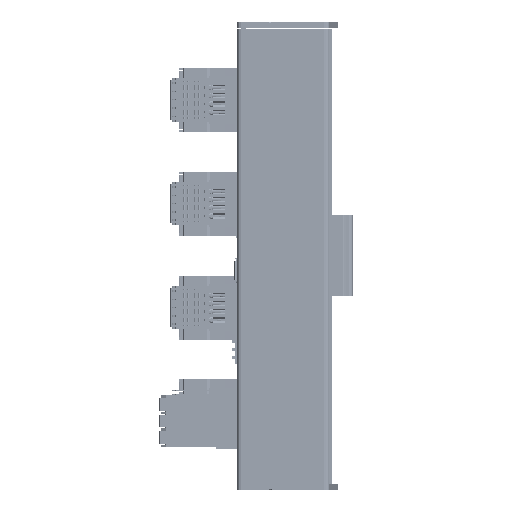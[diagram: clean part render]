
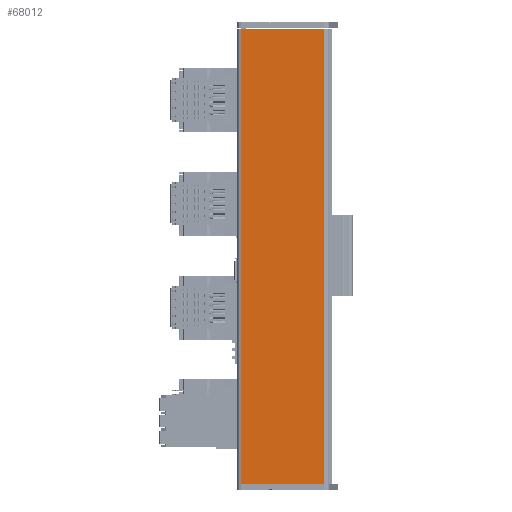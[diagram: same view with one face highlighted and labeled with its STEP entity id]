
A CAD part, left-side view. The second image highlights one B-rep face of the part: STEP entity #68012.
In plain terms, the highlighted planar face has unit normal (-1, 0, 0) as drawn and (1, 0, 0) by its records, which use the part's own axes.
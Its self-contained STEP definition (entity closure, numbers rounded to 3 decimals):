
#48 = VECTOR ( 'NONE', #456505, 1000. ) ;
#18955 = CARTESIAN_POINT ( 'NONE',  ( 52.5, 0., 140.1 ) ) ;
#39817 = ORIENTED_EDGE ( 'NONE', *, *, #506039, .F. ) ;
#46602 = EDGE_CURVE ( 'NONE', #213860, #267017, #537901, .T. ) ;
#49894 = CARTESIAN_POINT ( 'NONE',  ( 52.5, 0., 140.1 ) ) ;
#68012 = ADVANCED_FACE ( 'NONE', ( #186249 ), #364461, .F. ) ;
#75172 = DIRECTION ( 'NONE',  ( 0., 0., -1. ) ) ;
#82093 = VECTOR ( 'NONE', #178130, 1000. ) ;
#87139 = CARTESIAN_POINT ( 'NONE',  ( 52.5, 21.426, 140.1 ) ) ;
#91756 = AXIS2_PLACEMENT_3D ( 'NONE', #18955, #105369, #275353 ) ;
#93090 = EDGE_LOOP ( 'NONE', ( #504887, #440275, #110829, #39817 ) ) ;
#105369 = DIRECTION ( 'NONE',  ( -1., 0., 0. ) ) ;
#110829 = ORIENTED_EDGE ( 'NONE', *, *, #547257, .F. ) ;
#116481 = CARTESIAN_POINT ( 'NONE',  ( 52.5, -4.28, 140.1 ) ) ;
#130508 = VERTEX_POINT ( 'NONE', #347732 ) ;
#178130 = DIRECTION ( 'NONE',  ( 0., -1., 0. ) ) ;
#186249 = FACE_OUTER_BOUND ( 'NONE', #93090, .T. ) ;
#186355 = CARTESIAN_POINT ( 'NONE',  ( 52.5, 0., 0. ) ) ;
#189346 = CARTESIAN_POINT ( 'NONE',  ( 52.5, -4.28, 140.1 ) ) ;
#190280 = VERTEX_POINT ( 'NONE', #189346 ) ;
#191475 = CARTESIAN_POINT ( 'NONE',  ( 52.5, 21.426, 0. ) ) ;
#213860 = VERTEX_POINT ( 'NONE', #87139 ) ;
#267017 = VERTEX_POINT ( 'NONE', #191475 ) ;
#275353 = DIRECTION ( 'NONE',  ( 0., -1., 0. ) ) ;
#289739 = CARTESIAN_POINT ( 'NONE',  ( 52.5, 21.426, 140.1 ) ) ;
#294030 = EDGE_CURVE ( 'NONE', #190280, #213860, #434444, .T. ) ;
#347732 = CARTESIAN_POINT ( 'NONE',  ( 52.5, -4.28, 0. ) ) ;
#350879 = LINE ( 'NONE', #186355, #82093 ) ;
#364461 = PLANE ( 'NONE',  #91756 ) ;
#389880 = DIRECTION ( 'NONE',  ( 0., 1., 0. ) ) ;
#434444 = LINE ( 'NONE', #49894, #463762 ) ;
#437304 = VECTOR ( 'NONE', #75172, 1000. ) ;
#440275 = ORIENTED_EDGE ( 'NONE', *, *, #294030, .F. ) ;
#456505 = DIRECTION ( 'NONE',  ( 0., 0., 1. ) ) ;
#463762 = VECTOR ( 'NONE', #389880, 1000. ) ;
#495585 = LINE ( 'NONE', #116481, #48 ) ;
#504887 = ORIENTED_EDGE ( 'NONE', *, *, #46602, .F. ) ;
#506039 = EDGE_CURVE ( 'NONE', #267017, #130508, #350879, .T. ) ;
#537901 = LINE ( 'NONE', #289739, #437304 ) ;
#547257 = EDGE_CURVE ( 'NONE', #130508, #190280, #495585, .T. ) ;
